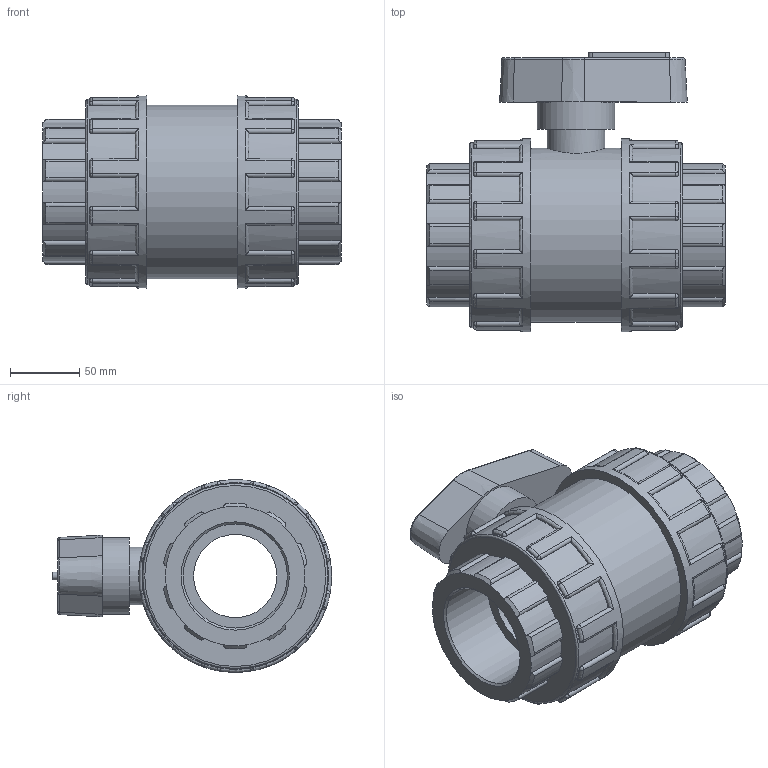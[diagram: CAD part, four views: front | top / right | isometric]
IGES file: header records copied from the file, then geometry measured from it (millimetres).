
Global section: file name: 11240075.ipt; native system: Autodesk Inventor 2015; preprocessor: unknown; author: KIM; date: 20171207.170254; units: millimetre
Bounding box: 215 x 201.34 x 139 mm (x, y, z)
Volume: 2084716.8 mm3; surface area: 184121.1 mm2
Topology: 1 solids, 1 shells, 434 faces, 1085 edges, 662 vertices
Faces by surface type: cylinder 189, plane 114, revolution 59, sphere 48, cone 24
Full cylindrical faces by diameter (mm): 41.7 x1, 55.6 x1, 125.1 x1, 133.44 x2, 139 x2
